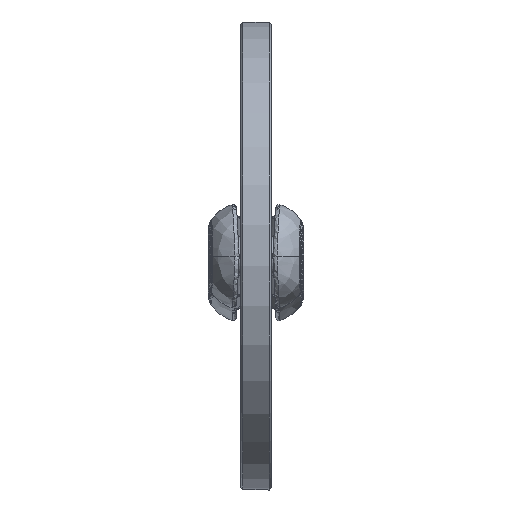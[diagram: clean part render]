
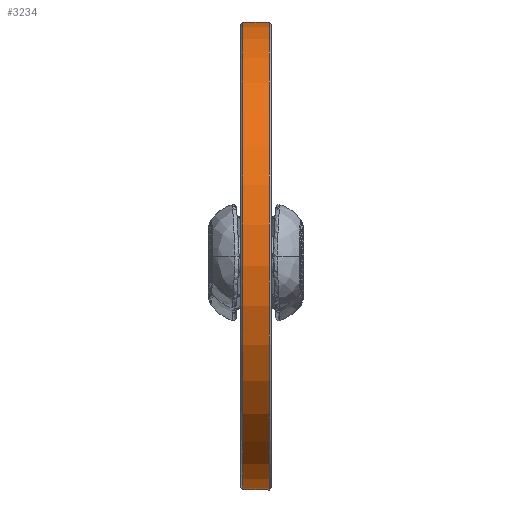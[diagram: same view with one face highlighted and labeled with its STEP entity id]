
A CAD part, top view. The second image highlights one B-rep face of the part: STEP entity #3234.
In plain terms, the highlighted cylindrical face has radius 340 mm (diameter 680 mm), a full revolution.
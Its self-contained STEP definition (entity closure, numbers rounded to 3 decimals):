
#791=FACE_BOUND($,#1495,.T.);
#982=CIRCLE($,#3592,340.);
#983=CIRCLE($,#3594,340.);
#1185=FACE_OUTER_BOUND($,#1494,.T.);
#1494=EDGE_LOOP($,(#2966));
#1495=EDGE_LOOP($,(#2967));
#1790=VERTEX_POINT($,#14004);
#1791=VERTEX_POINT($,#14007);
#2187=EDGE_CURVE($,#1790,#1790,#982,.T.);
#2188=EDGE_CURVE($,#1791,#1791,#983,.T.);
#2966=ORIENTED_EDGE($,*,*,#2188,.F.);
#2967=ORIENTED_EDGE($,*,*,#2187,.F.);
#3019=CYLINDRICAL_SURFACE($,#3593,340.);
#3234=ADVANCED_FACE($,(#1185,#791),#3019,.T.);
#3592=AXIS2_PLACEMENT_3D($,#14005,#4369,#4370);
#3593=AXIS2_PLACEMENT_3D($,#14006,#4371,#4372);
#3594=AXIS2_PLACEMENT_3D($,#14008,#4373,#4374);
#4369=DIRECTION('center_axis',(0.,0.,-1.));
#4370=DIRECTION('ref_axis',(-1.,0.,0.));
#4371=DIRECTION('center_axis',(0.,0.,1.));
#4372=DIRECTION('ref_axis',(-1.,0.,0.));
#4373=DIRECTION('center_axis',(0.,0.,1.));
#4374=DIRECTION('ref_axis',(-1.,0.,0.));
#14004=CARTESIAN_POINT('',(340.,0.,-19.5));
#14005=CARTESIAN_POINT('Origin',(0.,0.,-19.5));
#14006=CARTESIAN_POINT('Origin',(0.,0.,0.));
#14007=CARTESIAN_POINT('',(340.,0.,19.5));
#14008=CARTESIAN_POINT('Origin',(0.,0.,19.5));
